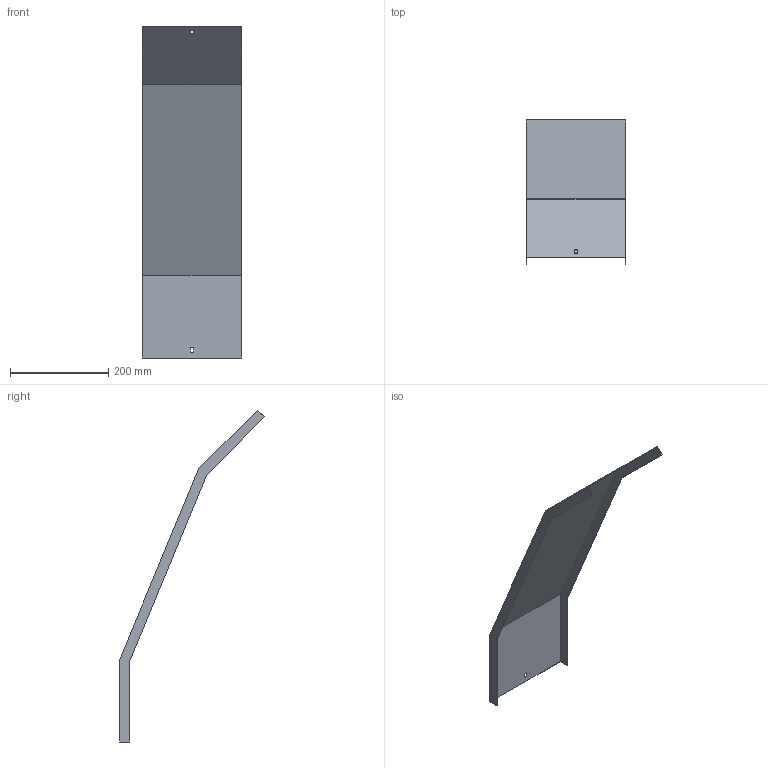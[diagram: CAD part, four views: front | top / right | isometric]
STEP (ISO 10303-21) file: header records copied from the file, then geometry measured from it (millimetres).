
FILE_DESCRIPTION (( 'STEP AP214' ), '1' );
FILE_NAME ('34N5C200.step', '2025-02-21T10:32:19', ( '' ), ( '' ), 'SwSTEP 2.0', 'SolidWorks 2023', '' );
FILE_SCHEMA (( 'AUTOMOTIVE_DESIGN' ));
Length unit declared in the file: millimetre
Products named in the file (1): 34N5C200
Bounding box: 203 x 294.72 x 677.38 mm (x, y, z)
Volume: 272376.8 mm3; surface area: 366212.8 mm2
Topology: 1 solids, 1 shells, 26 faces, 72 edges, 48 vertices
Faces by surface type: plane 26
Entity records: 847 total; most frequent: CARTESIAN_POINT 147, ORIENTED_EDGE 144, DIRECTION 126, EDGE_CURVE 72, LINE 72, VECTOR 72, VERTEX_POINT 48, EDGE_LOOP 30
